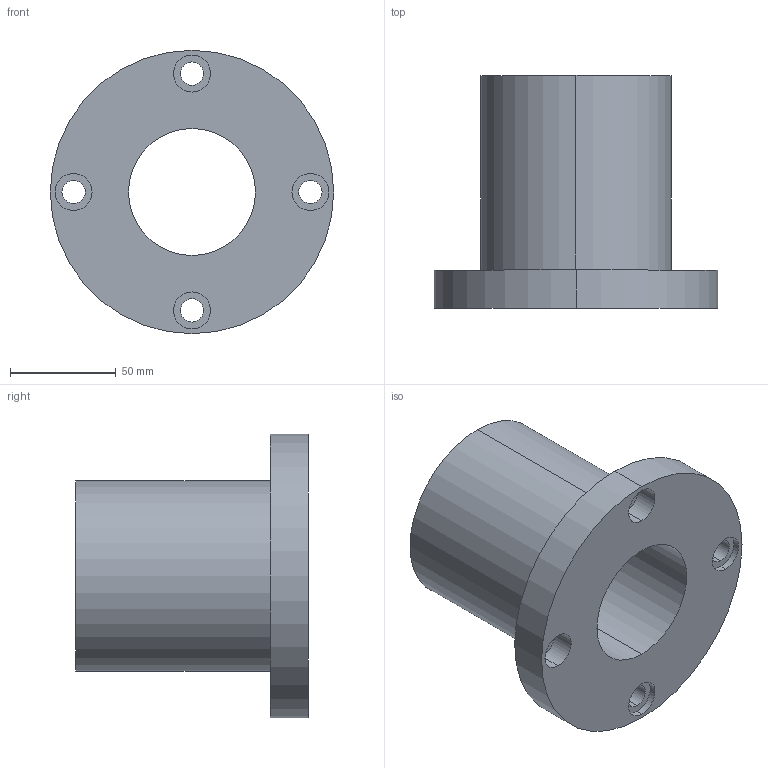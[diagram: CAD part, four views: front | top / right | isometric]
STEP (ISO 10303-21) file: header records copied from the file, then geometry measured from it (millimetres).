
FILE_DESCRIPTION (( 'STEP AP214' ), '1' );
FILE_NAME ('2.7042 Lineaarilaakeri LMF60UU.STEP', '2024-06-19T11:13:41', ( '' ), ( '' ), 'SwSTEP 2.0', 'SolidWorks 2024', '' );
FILE_SCHEMA (( 'AUTOMOTIVE_DESIGN' ));
Length unit declared in the file: millimetre
Products named in the file (1): 2.7042 Lineaarilaakeri LMF60UU
Bounding box: 134 x 110 x 134 mm (x, y, z)
Volume: 517220.9 mm3; surface area: 79170.3 mm2
Topology: 1 solids, 1 shells, 29 faces, 66 edges, 44 vertices
Faces by surface type: cylinder 22, plane 7
Entity records: 887 total; most frequent: DIRECTION 170, CARTESIAN_POINT 140, ORIENTED_EDGE 132, AXIS2_PLACEMENT_3D 74, EDGE_CURVE 66, CIRCLE 44, EDGE_LOOP 44, VERTEX_POINT 44
